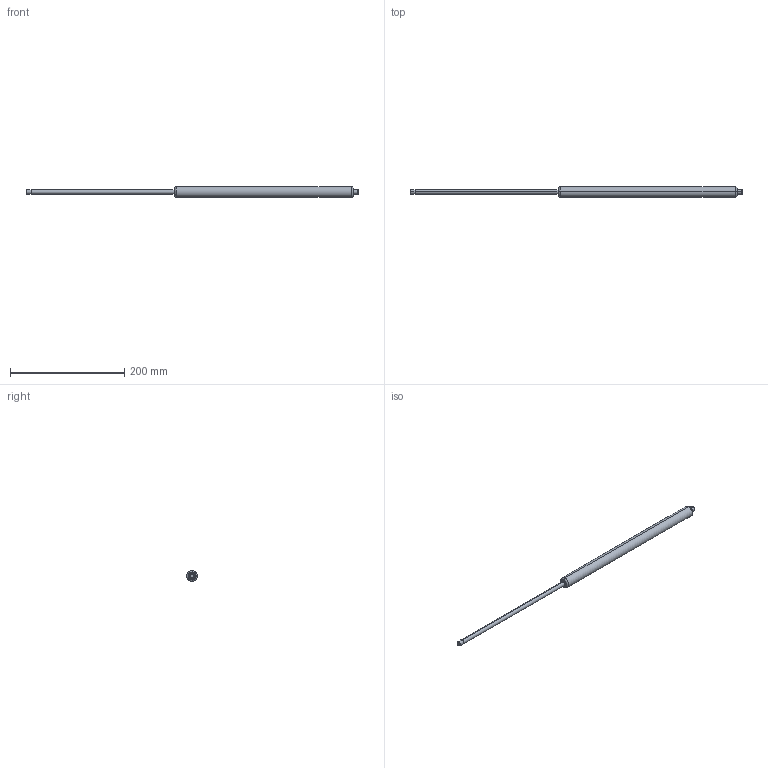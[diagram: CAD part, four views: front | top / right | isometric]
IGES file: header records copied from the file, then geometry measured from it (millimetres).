
Start section: SolidWorks IGES file using analytic representation for surfaces
Bounding box: 581 x 19 x 19 mm (x, y, z)
Surface area: 25825 mm2 (no closed solid volume)
Topology: 0 solids, 0 shells, 25 faces, 336 edges, 336 vertices
Faces by surface type: revolution 16, bspline 9
